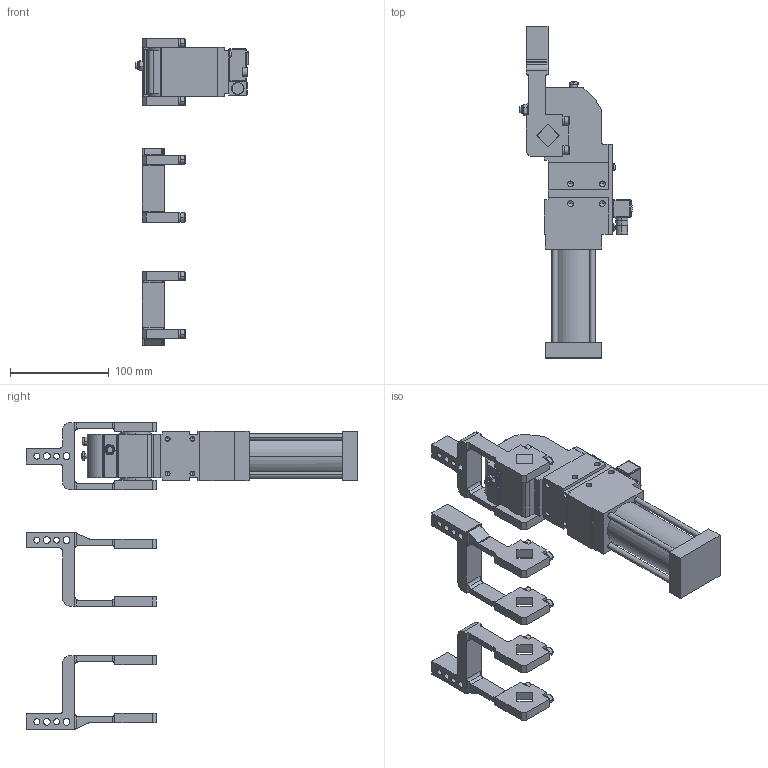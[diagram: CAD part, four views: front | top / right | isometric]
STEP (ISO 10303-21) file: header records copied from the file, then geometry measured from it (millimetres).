
FILE_DESCRIPTION((''),'2;1');
FILE_NAME('S:\Matthew\Step Files (Power Clamps) v.3.14\XSM Power Clamps\XSM 240.stp','2006-07-27T15:14:19',('Matthew'),(''),'Autodesk Inventor 8','Autodesk Inventor 8','');
FILE_SCHEMA(('AUTOMOTIVE_DESIGN { 1 0 10303 214 1 1 1 1 }'));
Length unit declared in the file: millimetre
Products named in the file (6): XSM 240; XSM 2401; XSM 2402; XSM 2403; XSM 2404; XSM 2405
Assembly tree (5 placements, depth 2):
  XSM 240
    XSM 2401
    XSM 2402
    XSM 2403
    XSM 2404
    XSM 2405
Bounding box: 114.72 x 336.2 x 311.25 mm (x, y, z)
Volume: 945715.2 mm3; surface area: 161253.6 mm2
Topology: 5 solids, 6 shells, 910 faces, 2499 edges, 1596 vertices
Faces by surface type: plane 321, cylinder 274, bspline 267, cone 28, sphere 16, torus 4
Entity records: 33024 total; most frequent: CARTESIAN_POINT 10545, ORIENTED_EDGE 4866, DIRECTION 4487, EDGE_CURVE 2433, AXIS2_PLACEMENT_3D 1598, VERTEX_POINT 1596, VECTOR 1291, LINE 1291
